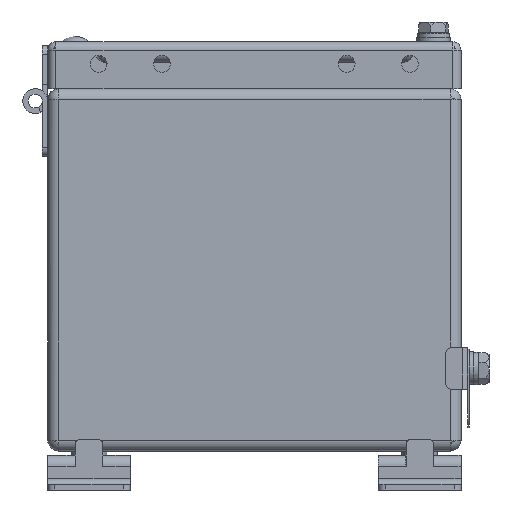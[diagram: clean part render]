
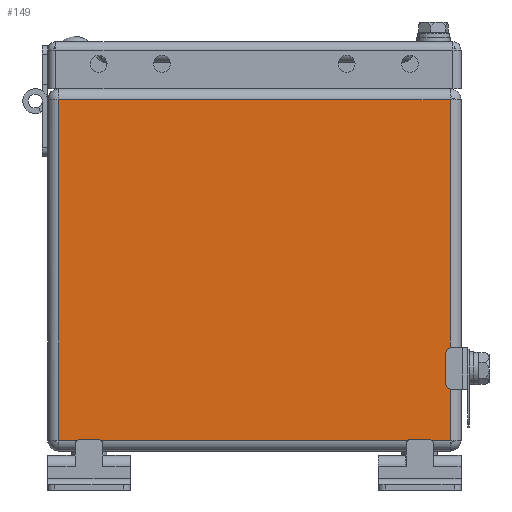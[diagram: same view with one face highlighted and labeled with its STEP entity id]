
A CAD part, front view. The second image highlights one B-rep face of the part: STEP entity #149.
In plain terms, the highlighted planar face has unit normal (0, -1, 0).
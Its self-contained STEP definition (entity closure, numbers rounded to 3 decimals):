
#110=CARTESIAN_POINT('',(75.0,-150.0,131.5));
#111=DIRECTION('',(0.0,1.0,0.0));
#112=DIRECTION('',(0.0,0.0,1.0));
#113=AXIS2_PLACEMENT_3D('',#110,#111,#112);
#114=PLANE('',#113);
#115=CARTESIAN_POINT('',(-71.0,-150.0,127.5));
#116=VERTEX_POINT('',#115);
#117=CARTESIAN_POINT('',(-71.0,-150.0,4.));
#118=VERTEX_POINT('',#117);
#119=CARTESIAN_POINT('',(-71.0,-150.0,127.5));
#120=DIRECTION('',(0.0,0.0,-1.0));
#121=VECTOR('',#120,123.5);
#122=LINE('',#119,#121);
#123=EDGE_CURVE('',#116,#118,#122,.T.);
#124=ORIENTED_EDGE('',*,*,#123,.T.);
#125=CARTESIAN_POINT('',(71.0,-150.0,4.));
#126=VERTEX_POINT('',#125);
#127=CARTESIAN_POINT('',(-71.0,-150.0,4.));
#128=DIRECTION('',(1.0,0.0,0.0));
#129=VECTOR('',#128,142.0);
#130=LINE('',#127,#129);
#131=EDGE_CURVE('',#118,#126,#130,.T.);
#132=ORIENTED_EDGE('',*,*,#131,.T.);
#133=CARTESIAN_POINT('',(71.0,-150.0,127.5));
#134=VERTEX_POINT('',#133);
#135=CARTESIAN_POINT('',(71.0,-150.0,4.));
#136=DIRECTION('',(0.0,0.0,1.0));
#137=VECTOR('',#136,123.5);
#138=LINE('',#135,#137);
#139=EDGE_CURVE('',#126,#134,#138,.T.);
#140=ORIENTED_EDGE('',*,*,#139,.T.);
#141=CARTESIAN_POINT('',(71.0,-150.0,127.5));
#142=DIRECTION('',(-1.0,0.0,0.0));
#143=VECTOR('',#142,142.0);
#144=LINE('',#141,#143);
#145=EDGE_CURVE('',#134,#116,#144,.T.);
#146=ORIENTED_EDGE('',*,*,#145,.T.);
#147=EDGE_LOOP('',(#124,#132,#140,#146));
#148=FACE_OUTER_BOUND('',#147,.T.);
#149=ADVANCED_FACE('',(#148),#114,.F.);
